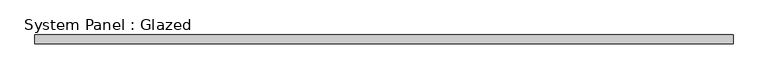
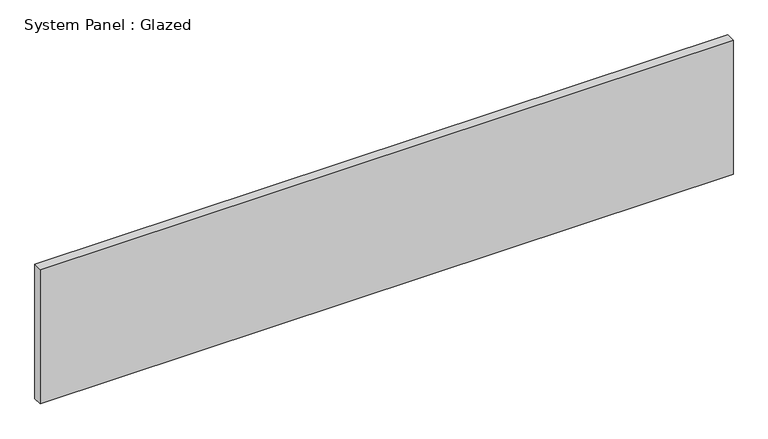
"""IFC4 building model written with IfcOpenShell, lengths in millimetres: plate geometry, System Panel : Glazed."""

from ifc_helpers import new_model, si_unit, origin, origin_with_axes, place, context, project, spatial, polyline, outline, extrude, source, transform, mapped, element, save


def system_panel_glazed_1b13e7de(model_context):
    return source(origin(), model_context, "Body", "SweptSolid", [
        extrude(outline(polyline([(975.0, -49.5), (-975.0, -49.5), (-975.0, -24.5), (975.0, -24.5), (975.0, -49.5)])), origin_with_axes(), (0.0, 0.0, 1.0), 400.0),
    ])


if __name__ == "__main__":
    model = new_model("IFC4")
    model_context = context("Model", 3, world=origin())
    ifc_project = project(units=[si_unit("LENGTHUNIT", "METRE", prefix="MILLI")], contexts=[model_context])
    site = spatial("IfcSite", under=ifc_project)
    building = spatial("IfcBuilding", under=site)
    placement = place(None, origin())
    system_panel_glazed_shape = system_panel_glazed_1b13e7de(model_context)
    element("IfcPlate", 1, ObjectType="System Panel : Glazed", at=placement, inside=building, context=model_context, shape_type="MappedRepresentation", body=[
        mapped(system_panel_glazed_shape, transform((0.0, 0.0, 0.0), x_axis=(1.0, 0.0, 0.0), y_axis=(0.0, 1.0, 0.0), z_axis=(0.0, 0.0, 1.0))),
    ])
    save(model, "model.ifc")
